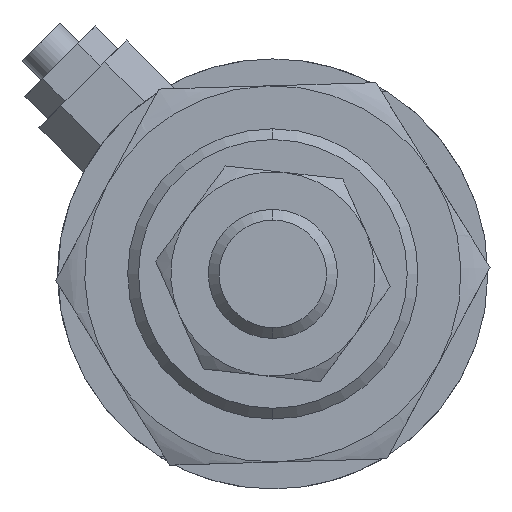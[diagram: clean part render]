
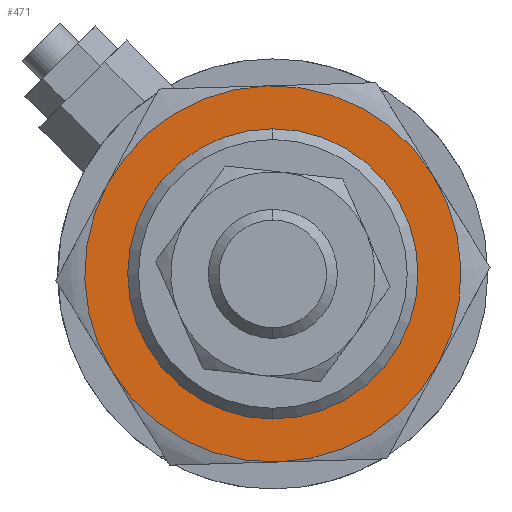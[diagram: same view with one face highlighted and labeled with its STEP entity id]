
A CAD part, left-side view. The second image highlights one B-rep face of the part: STEP entity #471.
In plain terms, the highlighted planar face has unit normal (-1, 0, 0) as drawn and (0, 0, -1) by its records, which use the part's own axes.
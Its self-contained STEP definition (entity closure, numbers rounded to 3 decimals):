
#151 = ORIENTED_EDGE ( 'NONE', *, *, #2692, .F. ) ;
#193 = FACE_BOUND ( 'NONE', #788, .T. ) ;
#300 = DIRECTION ( 'NONE',  ( 0., 0., 1. ) ) ;
#406 = AXIS2_PLACEMENT_3D ( 'NONE', #2717, #3291, #619 ) ;
#441 = ORIENTED_EDGE ( 'NONE', *, *, #820, .T. ) ;
#454 = DIRECTION ( 'NONE',  ( 0., 0., 1. ) ) ;
#471 = ADVANCED_FACE ( 'NONE', ( #193, #2212 ), #1798, .F. ) ;
#502 = EDGE_CURVE ( 'NONE', #521, #2528, #2267, .T. ) ;
#516 = DIRECTION ( 'NONE',  ( 1., 0., 0. ) ) ;
#521 = VERTEX_POINT ( 'NONE', #4742 ) ;
#606 = CARTESIAN_POINT ( 'NONE',  ( -17.5, 0., -5. ) ) ;
#618 = CARTESIAN_POINT ( 'NONE',  ( 12.5, 0., -5. ) ) ;
#619 = DIRECTION ( 'NONE',  ( 1., 0., 0. ) ) ;
#751 = VERTEX_POINT ( 'NONE', #618 ) ;
#788 = EDGE_LOOP ( 'NONE', ( #1977, #441 ) ) ;
#820 = EDGE_CURVE ( 'NONE', #2431, #751, #3818, .T. ) ;
#826 = CARTESIAN_POINT ( 'NONE',  ( 8.75, -15.155, -5. ) ) ;
#983 = DIRECTION ( 'NONE',  ( 1., 0., 0. ) ) ;
#1031 = CARTESIAN_POINT ( 'NONE',  ( 0., 0., -5. ) ) ;
#1053 = DIRECTION ( 'NONE',  ( 1., 0., 0. ) ) ;
#1156 = EDGE_CURVE ( 'NONE', #2870, #1416, #3164, .T. ) ;
#1231 = DIRECTION ( 'NONE',  ( 1., 0., 0. ) ) ;
#1276 = DIRECTION ( 'NONE',  ( 1., 0., 0. ) ) ;
#1416 = VERTEX_POINT ( 'NONE', #2832 ) ;
#1556 = CIRCLE ( 'NONE', #4379, 17.5 ) ;
#1566 = DIRECTION ( 'NONE',  ( 0., 0., 1. ) ) ;
#1627 = AXIS2_PLACEMENT_3D ( 'NONE', #4690, #1566, #1231 ) ;
#1656 = DIRECTION ( 'NONE',  ( 0., 0., 1. ) ) ;
#1659 = ORIENTED_EDGE ( 'NONE', *, *, #4877, .F. ) ;
#1798 = PLANE ( 'NONE',  #3467 ) ;
#1936 = VERTEX_POINT ( 'NONE', #4796 ) ;
#1977 = ORIENTED_EDGE ( 'NONE', *, *, #4957, .T. ) ;
#2212 = FACE_OUTER_BOUND ( 'NONE', #3131, .T. ) ;
#2267 = CIRCLE ( 'NONE', #406, 17.5 ) ;
#2302 = ORIENTED_EDGE ( 'NONE', *, *, #1156, .F. ) ;
#2374 = DIRECTION ( 'NONE',  ( 0., 0., 1. ) ) ;
#2431 = VERTEX_POINT ( 'NONE', #3077 ) ;
#2528 = VERTEX_POINT ( 'NONE', #826 ) ;
#2692 = EDGE_CURVE ( 'NONE', #1416, #2835, #4838, .T. ) ;
#2717 = CARTESIAN_POINT ( 'NONE',  ( 0., 0., -5. ) ) ;
#2755 = AXIS2_PLACEMENT_3D ( 'NONE', #4259, #454, #1276 ) ;
#2798 = ORIENTED_EDGE ( 'NONE', *, *, #502, .F. ) ;
#2832 = CARTESIAN_POINT ( 'NONE',  ( -8.75, 15.155, -5. ) ) ;
#2835 = VERTEX_POINT ( 'NONE', #606 ) ;
#2870 = VERTEX_POINT ( 'NONE', #4633 ) ;
#2940 = AXIS2_PLACEMENT_3D ( 'NONE', #3633, #1656, #4049 ) ;
#3012 = EDGE_CURVE ( 'NONE', #2528, #1936, #4274, .T. ) ;
#3069 = AXIS2_PLACEMENT_3D ( 'NONE', #4277, #3235, #983 ) ;
#3077 = CARTESIAN_POINT ( 'NONE',  ( -12.5, 0., -5. ) ) ;
#3131 = EDGE_LOOP ( 'NONE', ( #4485, #3137, #2798, #1659, #151, #2302 ) ) ;
#3137 = ORIENTED_EDGE ( 'NONE', *, *, #3012, .F. ) ;
#3164 = CIRCLE ( 'NONE', #1627, 17.5 ) ;
#3224 = CARTESIAN_POINT ( 'NONE',  ( 0., 0., -5. ) ) ;
#3225 = DIRECTION ( 'NONE',  ( 1., 0., 0. ) ) ;
#3235 = DIRECTION ( 'NONE',  ( 0., 0., 1. ) ) ;
#3291 = DIRECTION ( 'NONE',  ( 0., 0., 1. ) ) ;
#3467 = AXIS2_PLACEMENT_3D ( 'NONE', #4886, #4811, #4019 ) ;
#3633 = CARTESIAN_POINT ( 'NONE',  ( 0., 0., -5. ) ) ;
#3818 = CIRCLE ( 'NONE', #2755, 12.5 ) ;
#3907 = CIRCLE ( 'NONE', #3069, 17.5 ) ;
#4019 = DIRECTION ( 'NONE',  ( 1., 0., 0. ) ) ;
#4049 = DIRECTION ( 'NONE',  ( 1., 0., 0. ) ) ;
#4091 = AXIS2_PLACEMENT_3D ( 'NONE', #1031, #2374, #516 ) ;
#4259 = CARTESIAN_POINT ( 'NONE',  ( 0., 0., -5. ) ) ;
#4274 = CIRCLE ( 'NONE', #2940, 17.5 ) ;
#4277 = CARTESIAN_POINT ( 'NONE',  ( 0., 0., -5. ) ) ;
#4379 = AXIS2_PLACEMENT_3D ( 'NONE', #4751, #300, #3225 ) ;
#4455 = AXIS2_PLACEMENT_3D ( 'NONE', #3224, #4898, #1053 ) ;
#4485 = ORIENTED_EDGE ( 'NONE', *, *, #4601, .F. ) ;
#4601 = EDGE_CURVE ( 'NONE', #1936, #2870, #1556, .T. ) ;
#4633 = CARTESIAN_POINT ( 'NONE',  ( 8.75, 15.155, -5. ) ) ;
#4690 = CARTESIAN_POINT ( 'NONE',  ( 0., 0., -5. ) ) ;
#4742 = CARTESIAN_POINT ( 'NONE',  ( -8.75, -15.155, -5. ) ) ;
#4751 = CARTESIAN_POINT ( 'NONE',  ( 0., 0., -5. ) ) ;
#4796 = CARTESIAN_POINT ( 'NONE',  ( 17.5, 0., -5. ) ) ;
#4811 = DIRECTION ( 'NONE',  ( 0., 0., 1. ) ) ;
#4838 = CIRCLE ( 'NONE', #4455, 17.5 ) ;
#4877 = EDGE_CURVE ( 'NONE', #2835, #521, #3907, .T. ) ;
#4886 = CARTESIAN_POINT ( 'NONE',  ( 0., 0., -5. ) ) ;
#4898 = DIRECTION ( 'NONE',  ( 0., 0., 1. ) ) ;
#4957 = EDGE_CURVE ( 'NONE', #751, #2431, #4983, .T. ) ;
#4983 = CIRCLE ( 'NONE', #4091, 12.5 ) ;
